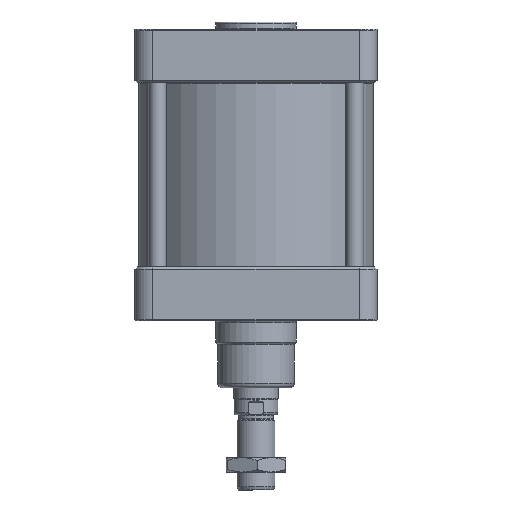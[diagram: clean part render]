
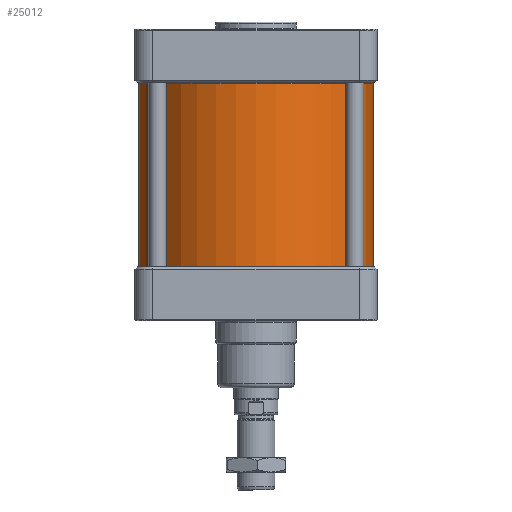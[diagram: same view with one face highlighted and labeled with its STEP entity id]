
A CAD part, front view. The second image highlights one B-rep face of the part: STEP entity #25012.
In plain terms, the highlighted cylindrical face has radius 131 mm (diameter 262 mm), a full revolution.
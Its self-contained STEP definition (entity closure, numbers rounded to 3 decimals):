
#2234=LINE('',#43870,#3025);
#3025=VECTOR('',#29768,1000.);
#6059=ORIENTED_EDGE('',*,*,#9876,.F.);
#6060=ORIENTED_EDGE('',*,*,#9879,.T.);
#6061=ORIENTED_EDGE('',*,*,#9880,.F.);
#6062=ORIENTED_EDGE('',*,*,#9879,.F.);
#9876=EDGE_CURVE('',#11909,#11909,#13088,.T.);
#9879=EDGE_CURVE('',#11909,#11911,#2234,.T.);
#9880=EDGE_CURVE('',#11911,#11911,#13090,.T.);
#11909=VERTEX_POINT('',#43864);
#11911=VERTEX_POINT('',#43871);
#13088=CIRCLE('',#26565,131.);
#13090=CIRCLE('',#26569,131.);
#14106=EDGE_LOOP('',(#6059,#6060,#6061,#6062));
#15374=FACE_BOUND('',#14106,.T.);
#16185=CYLINDRICAL_SURFACE('',#26568,131.);
#25012=ADVANCED_FACE('',(#15374),#16185,.T.);
#26565=AXIS2_PLACEMENT_3D('',#43863,#29759,#29760);
#26568=AXIS2_PLACEMENT_3D('',#43869,#29766,#29767);
#26569=AXIS2_PLACEMENT_3D('',#43872,#29769,#29770);
#29759=DIRECTION('',(0.,1.,0.));
#29760=DIRECTION('',(1.,0.,0.));
#29766=DIRECTION('',(0.,1.,0.));
#29767=DIRECTION('',(1.,0.,0.));
#29768=DIRECTION('',(0.,-1.,0.));
#29769=DIRECTION('',(0.,-1.,0.));
#29770=DIRECTION('',(1.,0.,0.));
#43863=CARTESIAN_POINT('',(0.,52.3,0.));
#43864=CARTESIAN_POINT('',(-131.,52.3,0.));
#43869=CARTESIAN_POINT('',(0.,0.,0.));
#43870=CARTESIAN_POINT('',(-131.,0.,0.));
#43871=CARTESIAN_POINT('',(-131.,-152.3,0.));
#43872=CARTESIAN_POINT('',(0.,-152.3,0.));
